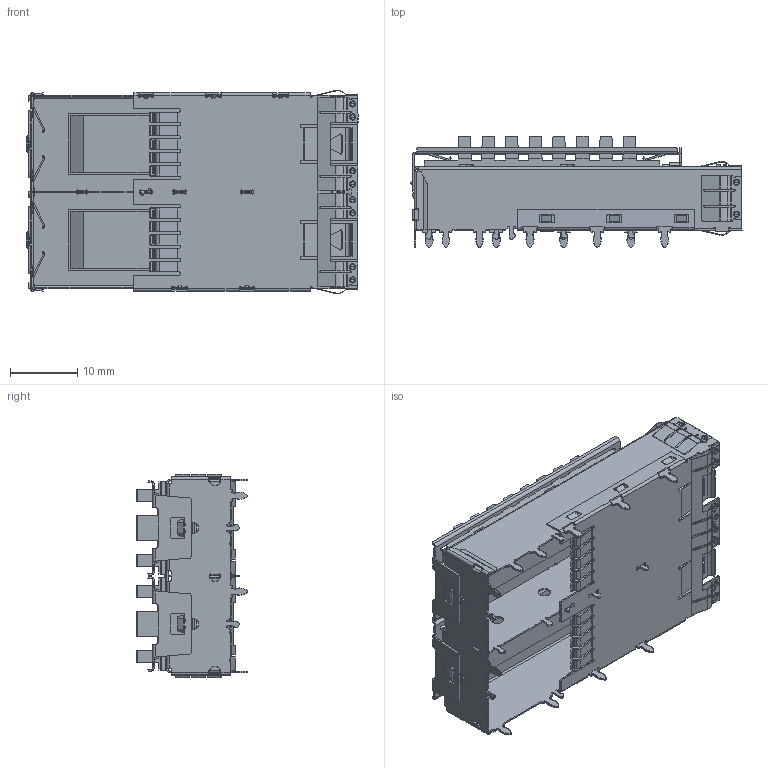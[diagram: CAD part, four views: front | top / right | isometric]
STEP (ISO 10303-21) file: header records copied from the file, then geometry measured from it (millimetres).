
FILE_DESCRIPTION (( 'STEP AP214' ), '1' );
FILE_NAME ('SB20-1401160000-0000-X.STEP', '2021-06-16T02:08:28', ( '' ), ( '' ), 'SwSTEP 2.0', 'SolidWorks 2012', '' );
FILE_SCHEMA (( 'AUTOMOTIVE_DESIGN' ));
Length unit declared in the file: millimetre
Products named in the file (10): SS20-S150_1x2-Bottom Spring Ass''y; SS20-S150_1x2-Top Spring Ass''y; SB10-SH10_H=4.5; SS20-S120_spring; SS20-S140_1x2 ass''y; SB10-S140_ass''y; SS20-S150_1x1-Side Spring Ass''y; SS20-S110-1_2.25-方孔-卡扣-無Lightpipe定位孔-ass''y; SS20-S130_pin to pin-ass''y; SB20-1401160000-0000-X
Assembly tree (12 placements, depth 2):
  SB20-1401160000-0000-X
    SS20-S110-1_2.25-方孔-卡扣-無Lightpipe定位孔-ass''y
    SS20-S130_pin to pin-ass''y
    SS20-S140_1x2 ass''y
    SS20-S120_spring
    SS20-S150_1x2-Top Spring Ass''y
    SS20-S150_1x1-Side Spring Ass''y  x2
    SS20-S150_1x2-Bottom Spring Ass''y
    SB10-SH10_H=4.5  x2
    SB10-S140_ass''y  x2
Bounding box: 49.33 x 16.55 x 30.25 mm (x, y, z)
Volume: 3217.8 mm3; surface area: 12981 mm2
Topology: 12 solids, 12 shells, 3994 faces, 10568 edges, 6576 vertices
Faces by surface type: plane 2087, cylinder 1641, bspline 106, torus 80, sphere 80
Entity records: 109316 total; most frequent: CARTESIAN_POINT 23334, DIRECTION 18262, ORIENTED_EDGE 18064, EDGE_CURVE 9032, AXIS2_PLACEMENT_3D 6388, VERTEX_POINT 5612, VECTOR 5486, LINE 5486
